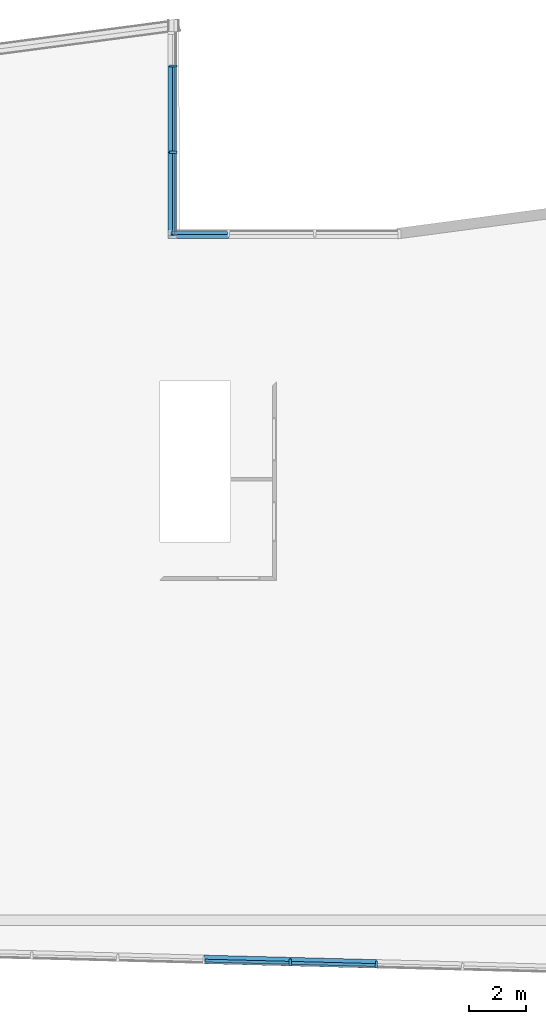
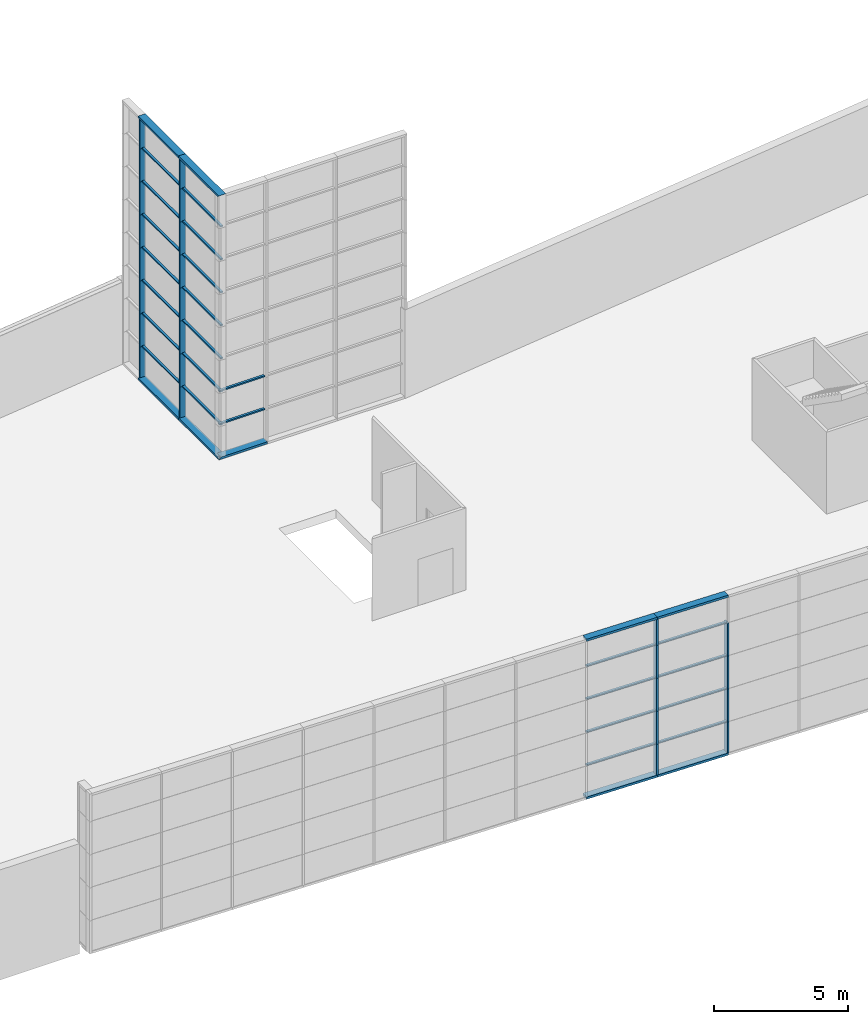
# One storey, part 5 of 27: 58 members, 3 elements without a shape of their own.
"""IFC2X3 building model written with IfcOpenShell, lengths in metres."""

from ifc_helpers import new_model, entity, si_unit, converted_unit, money_unit, direction, frame, origin_with_axes, place, context, subcontext, project, spatial, polyline, outline, extrude, clip, halfspace, material, type_object, element, aggregate, save


model = new_model("IFC2X3")

# Units and contexts
model_context = context("Model", 3, precision=1e-05, world=origin_with_axes(), true_north=direction((0.0, 1.0)))
body_context = subcontext(model_context, "Body", "Model", "MODEL_VIEW")
ifc_project = project(units=[si_unit("LENGTHUNIT", "METRE"), si_unit("AREAUNIT", "SQUARE_METRE"), si_unit("VOLUMEUNIT", "CUBIC_METRE"), converted_unit("PLANEANGLEUNIT", "DEGREE", entity("IfcPlaneAngleMeasure", 0.0174532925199), si_unit("PLANEANGLEUNIT", "RADIAN"), dimensions=[0, 0, 0, 0, 0, 0, 0]), si_unit("SOLIDANGLEUNIT", "STERADIAN"), money_unit("EUR"), converted_unit("TIMEUNIT", "Year", entity("IfcTimeMeasure", 31556926.0), si_unit("TIMEUNIT", "SECOND"), dimensions=[0, 0, 0, 0, 0, 0, 0]), si_unit("MASSUNIT", "GRAM"), si_unit("THERMODYNAMICTEMPERATUREUNIT", "DEGREE_CELSIUS"), si_unit("LUMINOUSINTENSITYUNIT", "LUMEN")], contexts=[model_context])

# Site, building, storey
site_placement = place(None, origin_with_axes())
site = spatial("IfcSite", under=ifc_project, at=site_placement, Name="Undefined", CompositionType="ELEMENT")
building_placement = place(site_placement, origin_with_axes())
building = spatial("IfcBuilding", under=site, at=building_placement, Name="Undefined", CompositionType="ELEMENT")
storey_placement = place(building_placement, frame((0.0, 0.0, 5.4), z_axis=(0.0, 0.0, 1.0), x_axis=(1.0, 0.0, 0.0)))
storey = spatial("IfcBuildingStorey", under=building, at=storey_placement, Name="R+1", CompositionType="ELEMENT", Elevation=5.4)

# Curtain wall, members
curtain_wall_type = type_object("IfcCurtainWallType", Name="Type de mur-rideau", PredefinedType="NOTDEFINED")
curtain_wall_1_placement = place(storey_placement, frame((29.5, 25.04409, 0.0), z_axis=(0.0, 0.0, 1.0), x_axis=(1.0, 0.0, 0.0)))
curtain_wall_1 = element("IfcCurtainWall", 1, at=curtain_wall_1_placement, inside=storey, type_object=curtain_wall_type, Name="CurtainWall_01", ObjectType="CURTAIN WALL")
ifc_material = material(Name="25 % 359672764")
member_type_1 = type_object("IfcMemberType", Name="Cadre 100 x 300", PredefinedType="NOTDEFINED")
member_1_placement = place(curtain_wall_1_placement, frame((0.0, -1.5, 0.0), z_axis=(0.0, 1.0, 0.0), x_axis=(0.0, 0.0, 1.0)))
member_1 = element("IfcMember", 2, at=member_1_placement, type_object=member_type_1, material=ifc_material, Name="Frame-Bnd-212", context=body_context, shape_type="Clipping", body=[
    clip(extrude(outline(polyline([(-0.25, -0.1), (0.05, -0.1), (0.05, 0.0), (-0.25, 0.0), (-0.25, -0.1)])), frame((0.0, 0.0, 0.0), z_axis=(0.0, 0.0, 1.0), x_axis=(0.0, 1.0, 0.0)), (0.0, 0.0, 1.0), 3.0), halfspace(frame((0.0, 0.0, 0.0), z_axis=(-0.707106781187, 0.0, 0.707106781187), x_axis=(0.0, -1.0, 0.0)), True)),
])
member_2_placement = place(curtain_wall_1_placement, frame((0.0, 1.5, 0.0), z_axis=(0.0, 1.0, 0.0), x_axis=(0.0, 0.0, 1.0)))
member_2 = element("IfcMember", 3, at=member_2_placement, type_object=member_type_1, material=ifc_material, Name="Frame-Bnd-213", context=body_context, shape_type="SweptSolid", body=[
    extrude(outline(polyline([(-0.25, -0.1), (0.05, -0.1), (0.05, 0.0), (-0.25, 0.0), (-0.25, -0.1)])), frame((0.0, 0.0, 0.0), z_axis=(0.0, 0.0, 1.0), x_axis=(0.0, 1.0, 0.0)), (0.0, 0.0, 1.0), 3.0),
])
member_3_placement = place(curtain_wall_1_placement, frame((0.0, -1.5, 12.0), z_axis=(0.0, 1.0, 0.0), x_axis=(0.0, 0.0, 1.0)))
member_3 = element("IfcMember", 4, at=member_3_placement, type_object=member_type_1, material=ifc_material, Name="Frame-Bnd-270", context=body_context, shape_type="Clipping", body=[
    clip(extrude(outline(polyline([(-0.25, 0.0), (0.05, 0.0), (0.05, 0.1), (-0.25, 0.1), (-0.25, 0.0)])), frame((0.0, 0.0, 0.0), z_axis=(0.0, 0.0, 1.0), x_axis=(0.0, 1.0, 0.0)), (0.0, 0.0, 1.0), 3.0), halfspace(frame((0.0, 0.0, 0.0), z_axis=(0.707106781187, 0.0, 0.707106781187), x_axis=(0.0, -1.0, 0.0)), True)),
])
member_4_placement = place(curtain_wall_1_placement, frame((0.0, 1.5, 12.0), z_axis=(0.0, 1.0, 0.0), x_axis=(0.0, 0.0, 1.0)))
member_4 = element("IfcMember", 5, at=member_4_placement, type_object=member_type_1, material=ifc_material, Name="Frame-Bnd-270", context=body_context, shape_type="SweptSolid", body=[
    extrude(outline(polyline([(-0.25, 0.0), (0.05, 0.0), (0.05, 0.1), (-0.25, 0.1), (-0.25, 0.0)])), frame((0.0, 0.0, 0.0), z_axis=(0.0, 0.0, 1.0), x_axis=(0.0, 1.0, 0.0)), (0.0, 0.0, 1.0), 3.0),
])

# Curtain wall, member
curtain_wall_2_placement = place(storey_placement, frame((35.8499996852, 23.7940983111, 0.0), z_axis=(0.0, 0.0, 1.0), x_axis=(1.0, 0.0, 0.0)))
curtain_wall_2 = element("IfcCurtainWall", 6, at=curtain_wall_2_placement, inside=storey, type_object=curtain_wall_type, Name="CurtainWall_01", ObjectType="CURTAIN WALL")
member_5_placement = place(curtain_wall_2_placement, frame((-4.5, -5.66665926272e-06, 0.0), z_axis=(-0.999999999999, -1.25925771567e-06, 0.0), x_axis=(0.0, 0.0, 1.0)))
member_5 = element("IfcMember", 7, at=member_5_placement, type_object=member_type_1, material=ifc_material, Name="Frame-Bnd-177", context=body_context, shape_type="Clipping", body=[
    clip(extrude(outline(polyline([(-0.25, -0.1), (0.05, -0.1), (0.05, 0.0), (-0.25, 0.0), (-0.25, -0.1)])), frame((0.0, 0.0, 0.0), z_axis=(0.0, 0.0, 1.0), x_axis=(0.0, 1.0, 0.0)), (0.0, 0.0, 1.0), 2.1), halfspace(frame((1.05, 0.0, 1.05), z_axis=(-0.707106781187, 0.0, -0.707106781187), x_axis=(0.0, 1.0, 0.0)), True)),
])

# Curtain wall, members
curtain_wall_3_placement = place(storey_placement, frame((10.9994920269, -1.13484133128, -0.55), z_axis=(0.0, 0.0, 1.0), x_axis=(1.0, 0.0, 0.0)))
curtain_wall_3 = element("IfcCurtainWall", 8, at=curtain_wall_3_placement, inside=storey, type_object=curtain_wall_type, Name="CurtainWall_01", ObjectType="CURTAIN WALL")
member_6_placement = place(curtain_wall_3_placement, frame((19.4933967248, -0.507428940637, 0.0), z_axis=(0.999661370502, -0.0260219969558, 0.0), x_axis=(0.0, 0.0, 1.0)))
member_6 = element("IfcMember", 9, at=member_6_placement, type_object=member_type_1, material=ifc_material, Name="Frame-Bnd-565", context=body_context, shape_type="SweptSolid", body=[
    extrude(outline(polyline([(-0.25, -0.1), (0.05, -0.1), (0.05, 0.0), (-0.25, 0.0), (-0.25, -0.1)])), frame((0.0, 0.0, 0.0), z_axis=(0.0, 0.0, 1.0), x_axis=(0.0, 1.0, 0.0)), (0.0, 0.0, 1.0), 3.0),
])
member_7_placement = place(curtain_wall_3_placement, frame((22.4923808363, -0.585494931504, 0.0), z_axis=(0.999661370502, -0.0260219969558, 0.0), x_axis=(0.0, 0.0, 1.0)))
member_7 = element("IfcMember", 10, at=member_7_placement, type_object=member_type_1, material=ifc_material, Name="Frame-Bnd-565", context=body_context, shape_type="SweptSolid", body=[
    extrude(outline(polyline([(-0.25, -0.1), (0.05, -0.1), (0.05, 0.0), (-0.25, 0.0), (-0.25, -0.1)])), frame((0.0, 0.0, 0.0), z_axis=(0.0, 0.0, 1.0), x_axis=(0.0, 1.0, 0.0)), (0.0, 0.0, 1.0), 3.0),
])
member_8_placement = place(curtain_wall_3_placement, frame((22.4923808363, -0.585494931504, 7.27506830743), z_axis=(-0.999661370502, 0.0260219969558, 0.0), x_axis=(0.0, 0.0, -1.0)))
member_8 = element("IfcMember", 11, at=member_8_placement, type_object=member_type_1, material=ifc_material, Name="Frame-Bnd-855", context=body_context, shape_type="SweptSolid", body=[
    extrude(outline(polyline([(0.25, 0.1), (-0.05, 0.1), (-0.05, 0.0), (0.25, 0.0), (0.25, 0.1)])), frame((0.0, 0.0, 0.0), z_axis=(0.0, 0.0, 1.0), x_axis=(0.0, -1.0, 0.0)), (0.0, 0.0, 1.0), 3.0),
])
member_9_placement = place(curtain_wall_3_placement, frame((25.4913649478, -0.663560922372, 7.27506830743), z_axis=(-0.999661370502, 0.0260219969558, 0.0), x_axis=(0.0, 0.0, -1.0)))
member_9 = element("IfcMember", 12, at=member_9_placement, type_object=member_type_1, material=ifc_material, Name="Frame-Bnd-856", context=body_context, shape_type="SweptSolid", body=[
    extrude(outline(polyline([(0.25, 0.1), (-0.05, 0.1), (-0.05, 0.0), (0.25, 0.0), (0.25, 0.1)])), frame((0.0, 0.0, 0.0), z_axis=(0.0, 0.0, 1.0), x_axis=(0.0, -1.0, 0.0)), (0.0, 0.0, 1.0), 3.0),
])

# Member
member_type_2 = type_object("IfcMemberType", Name="Montant 80 x 250", PredefinedType="NOTDEFINED")
member_10_placement = place(curtain_wall_1_placement, frame((0.0, 1.5, 0.0), z_axis=(0.0, 0.0, 1.0), x_axis=(0.0, -1.0, 0.0)))
member_10 = element("IfcMember", 13, at=member_10_placement, type_object=member_type_2, material=ifc_material, Name="Frame-Mll-447", context=body_context, shape_type="SweptSolid", body=[
    extrude(outline(polyline([(-0.2, -0.04), (0.05, -0.04), (0.05, 0.04), (-0.2, 0.04), (-0.2, -0.04)])), frame((0.0, 0.0, 0.1), z_axis=(0.0, 0.0, 1.0), x_axis=(0.0, 1.0, 0.0)), (0.0, 0.0, 1.0), 1.4),
])

member_11_placement = place(curtain_wall_1_placement, frame((0.0, 4.5, 0.0), z_axis=(0.0, 0.0, 1.0), x_axis=(0.0, -1.0, 0.0)))
member_11 = element("IfcMember", 14, at=member_11_placement, type_object=member_type_2, material=ifc_material, Name="Frame-Mll-448", context=body_context, shape_type="SweptSolid", body=[
    extrude(outline(polyline([(-0.2, -0.04), (0.05, -0.04), (0.05, 0.04), (-0.2, 0.04), (-0.2, -0.04)])), frame((0.0, 0.0, 0.1), z_axis=(0.0, 0.0, 1.0), x_axis=(0.0, 1.0, 0.0)), (0.0, 0.0, 1.0), 1.4),
])

member_12_placement = place(curtain_wall_1_placement, frame((0.0, 1.5, 1.5), z_axis=(0.0, 0.0, 1.0), x_axis=(0.0, -1.0, 0.0)))
member_12 = element("IfcMember", 15, at=member_12_placement, type_object=member_type_2, material=ifc_material, Name="Frame-Mll-449", context=body_context, shape_type="SweptSolid", body=[
    extrude(outline(polyline([(-0.2, -0.04), (0.05, -0.04), (0.05, 0.04), (-0.2, 0.04), (-0.2, -0.04)])), frame((0.0, 0.0, 0.0), z_axis=(0.0, 0.0, 1.0), x_axis=(0.0, 1.0, 0.0)), (0.0, 0.0, 1.0), 1.5),
])

member_13_placement = place(curtain_wall_1_placement, frame((0.0, 4.5, 1.5), z_axis=(0.0, 0.0, 1.0), x_axis=(0.0, -1.0, 0.0)))
member_13 = element("IfcMember", 16, at=member_13_placement, type_object=member_type_2, material=ifc_material, Name="Frame-Mll-450", context=body_context, shape_type="SweptSolid", body=[
    extrude(outline(polyline([(-0.2, -0.04), (0.05, -0.04), (0.05, 0.04), (-0.2, 0.04), (-0.2, -0.04)])), frame((0.0, 0.0, 0.0), z_axis=(0.0, 0.0, 1.0), x_axis=(0.0, 1.0, 0.0)), (0.0, 0.0, 1.0), 1.5),
])

member_14_placement = place(curtain_wall_1_placement, frame((0.0, 1.5, 3.0), z_axis=(0.0, 0.0, 1.0), x_axis=(0.0, -1.0, 0.0)))
member_14 = element("IfcMember", 17, at=member_14_placement, type_object=member_type_2, material=ifc_material, Name="Frame-Mll-451", context=body_context, shape_type="SweptSolid", body=[
    extrude(outline(polyline([(-0.2, -0.04), (0.05, -0.04), (0.05, 0.04), (-0.2, 0.04), (-0.2, -0.04)])), frame((0.0, 0.0, 0.0), z_axis=(0.0, 0.0, 1.0), x_axis=(0.0, 1.0, 0.0)), (0.0, 0.0, 1.0), 1.5),
])

member_15_placement = place(curtain_wall_1_placement, frame((0.0, 4.5, 3.0), z_axis=(0.0, 0.0, 1.0), x_axis=(0.0, -1.0, 0.0)))
member_15 = element("IfcMember", 18, at=member_15_placement, type_object=member_type_2, material=ifc_material, Name="Frame-Mll-452", context=body_context, shape_type="SweptSolid", body=[
    extrude(outline(polyline([(-0.2, -0.04), (0.05, -0.04), (0.05, 0.04), (-0.2, 0.04), (-0.2, -0.04)])), frame((0.0, 0.0, 0.0), z_axis=(0.0, 0.0, 1.0), x_axis=(0.0, 1.0, 0.0)), (0.0, 0.0, 1.0), 1.5),
])

member_16_placement = place(curtain_wall_1_placement, frame((0.0, 1.5, 4.5), z_axis=(0.0, 0.0, 1.0), x_axis=(0.0, -1.0, 0.0)))
member_16 = element("IfcMember", 19, at=member_16_placement, type_object=member_type_2, material=ifc_material, Name="Frame-Mll-453", context=body_context, shape_type="SweptSolid", body=[
    extrude(outline(polyline([(-0.2, -0.04), (0.05, -0.04), (0.05, 0.04), (-0.2, 0.04), (-0.2, -0.04)])), frame((0.0, 0.0, 0.0), z_axis=(0.0, 0.0, 1.0), x_axis=(0.0, 1.0, 0.0)), (0.0, 0.0, 1.0), 1.5),
])

member_17_placement = place(curtain_wall_1_placement, frame((0.0, 4.5, 4.5), z_axis=(0.0, 0.0, 1.0), x_axis=(0.0, -1.0, 0.0)))
member_17 = element("IfcMember", 20, at=member_17_placement, type_object=member_type_2, material=ifc_material, Name="Frame-Mll-454", context=body_context, shape_type="SweptSolid", body=[
    extrude(outline(polyline([(-0.2, -0.04), (0.05, -0.04), (0.05, 0.04), (-0.2, 0.04), (-0.2, -0.04)])), frame((0.0, 0.0, 0.0), z_axis=(0.0, 0.0, 1.0), x_axis=(0.0, 1.0, 0.0)), (0.0, 0.0, 1.0), 1.5),
])

member_18_placement = place(curtain_wall_1_placement, frame((0.0, 1.5, 6.0), z_axis=(0.0, 0.0, 1.0), x_axis=(0.0, -1.0, 0.0)))
member_18 = element("IfcMember", 21, at=member_18_placement, type_object=member_type_2, material=ifc_material, Name="Frame-Mll-455", context=body_context, shape_type="SweptSolid", body=[
    extrude(outline(polyline([(-0.2, -0.04), (0.05, -0.04), (0.05, 0.04), (-0.2, 0.04), (-0.2, -0.04)])), frame((0.0, 0.0, 0.0), z_axis=(0.0, 0.0, 1.0), x_axis=(0.0, 1.0, 0.0)), (0.0, 0.0, 1.0), 1.5),
])

member_19_placement = place(curtain_wall_1_placement, frame((0.0, 4.5, 6.0), z_axis=(0.0, 0.0, 1.0), x_axis=(0.0, -1.0, 0.0)))
member_19 = element("IfcMember", 22, at=member_19_placement, type_object=member_type_2, material=ifc_material, Name="Frame-Mll-456", context=body_context, shape_type="SweptSolid", body=[
    extrude(outline(polyline([(-0.2, -0.04), (0.05, -0.04), (0.05, 0.04), (-0.2, 0.04), (-0.2, -0.04)])), frame((0.0, 0.0, 0.0), z_axis=(0.0, 0.0, 1.0), x_axis=(0.0, 1.0, 0.0)), (0.0, 0.0, 1.0), 1.5),
])

member_20_placement = place(curtain_wall_1_placement, frame((0.0, 1.5, 7.5), z_axis=(0.0, 0.0, 1.0), x_axis=(0.0, -1.0, 0.0)))
member_20 = element("IfcMember", 23, at=member_20_placement, type_object=member_type_2, material=ifc_material, Name="Frame-Mll-457", context=body_context, shape_type="SweptSolid", body=[
    extrude(outline(polyline([(-0.2, -0.04), (0.05, -0.04), (0.05, 0.04), (-0.2, 0.04), (-0.2, -0.04)])), frame((0.0, 0.0, 0.0), z_axis=(0.0, 0.0, 1.0), x_axis=(0.0, 1.0, 0.0)), (0.0, 0.0, 1.0), 1.5),
])

member_21_placement = place(curtain_wall_1_placement, frame((0.0, 4.5, 7.5), z_axis=(0.0, 0.0, 1.0), x_axis=(0.0, -1.0, 0.0)))
member_21 = element("IfcMember", 24, at=member_21_placement, type_object=member_type_2, material=ifc_material, Name="Frame-Mll-458", context=body_context, shape_type="SweptSolid", body=[
    extrude(outline(polyline([(-0.2, -0.04), (0.05, -0.04), (0.05, 0.04), (-0.2, 0.04), (-0.2, -0.04)])), frame((0.0, 0.0, 0.0), z_axis=(0.0, 0.0, 1.0), x_axis=(0.0, 1.0, 0.0)), (0.0, 0.0, 1.0), 1.5),
])

member_22_placement = place(curtain_wall_1_placement, frame((0.0, 1.5, 9.0), z_axis=(0.0, 0.0, 1.0), x_axis=(0.0, -1.0, 0.0)))
member_22 = element("IfcMember", 25, at=member_22_placement, type_object=member_type_2, material=ifc_material, Name="Frame-Mll-459", context=body_context, shape_type="SweptSolid", body=[
    extrude(outline(polyline([(-0.2, -0.04), (0.05, -0.04), (0.05, 0.04), (-0.2, 0.04), (-0.2, -0.04)])), frame((0.0, 0.0, 0.0), z_axis=(0.0, 0.0, 1.0), x_axis=(0.0, 1.0, 0.0)), (0.0, 0.0, 1.0), 1.5),
])

member_23_placement = place(curtain_wall_1_placement, frame((0.0, 4.5, 9.0), z_axis=(0.0, 0.0, 1.0), x_axis=(0.0, -1.0, 0.0)))
member_23 = element("IfcMember", 26, at=member_23_placement, type_object=member_type_2, material=ifc_material, Name="Frame-Mll-460", context=body_context, shape_type="SweptSolid", body=[
    extrude(outline(polyline([(-0.2, -0.04), (0.05, -0.04), (0.05, 0.04), (-0.2, 0.04), (-0.2, -0.04)])), frame((0.0, 0.0, 0.0), z_axis=(0.0, 0.0, 1.0), x_axis=(0.0, 1.0, 0.0)), (0.0, 0.0, 1.0), 1.5),
])

member_24_placement = place(curtain_wall_1_placement, frame((0.0, 1.5, 10.5), z_axis=(0.0, 0.0, 1.0), x_axis=(0.0, -1.0, 0.0)))
member_24 = element("IfcMember", 27, at=member_24_placement, type_object=member_type_2, material=ifc_material, Name="Frame-Mll-461", context=body_context, shape_type="SweptSolid", body=[
    extrude(outline(polyline([(-0.2, -0.04), (0.05, -0.04), (0.05, 0.04), (-0.2, 0.04), (-0.2, -0.04)])), frame((0.0, 0.0, 0.0), z_axis=(0.0, 0.0, 1.0), x_axis=(0.0, 1.0, 0.0)), (0.0, 0.0, 1.0), 1.4),
])

member_25_placement = place(curtain_wall_1_placement, frame((0.0, 4.5, 10.5), z_axis=(0.0, 0.0, 1.0), x_axis=(0.0, -1.0, 0.0)))
member_25 = element("IfcMember", 28, at=member_25_placement, type_object=member_type_2, material=ifc_material, Name="Frame-Mll-462", context=body_context, shape_type="SweptSolid", body=[
    extrude(outline(polyline([(-0.2, -0.04), (0.05, -0.04), (0.05, 0.04), (-0.2, 0.04), (-0.2, -0.04)])), frame((0.0, 0.0, 0.0), z_axis=(0.0, 0.0, 1.0), x_axis=(0.0, 1.0, 0.0)), (0.0, 0.0, 1.0), 1.4),
])

member_26_placement = place(curtain_wall_3_placement, frame((22.4923808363, -0.585494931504, 0.0), z_axis=(0.0, 0.0, 1.0), x_axis=(-0.999661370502, 0.0260219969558, 0.0)))
member_26 = element("IfcMember", 29, at=member_26_placement, type_object=member_type_2, material=ifc_material, Name="Frame-Mll-209", context=body_context, shape_type="SweptSolid", body=[
    extrude(outline(polyline([(-0.0347820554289, 0.200973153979), (-0.0412875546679, -0.0489421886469), (0.0386853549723, -0.0510239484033), (0.0451908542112, 0.198891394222), (-0.0347820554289, 0.200973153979)])), frame((0.0, 0.0, 0.1), z_axis=(0.0, 0.0, 1.0), x_axis=(-0.999661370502, -0.0260219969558, 0.0)), (0.0, 0.0, 1.0), 1.4),
])

member_27_placement = place(curtain_wall_3_placement, frame((25.4913649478, -0.663560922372, 0.0), z_axis=(0.0, 0.0, 1.0), x_axis=(-0.999661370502, 0.0260219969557, 0.0)))
member_27 = element("IfcMember", 30, at=member_27_placement, type_object=member_type_2, material=ifc_material, Name="Frame-Mll-209", context=body_context, shape_type="SweptSolid", body=[
    extrude(outline(polyline([(-0.0347820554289, 0.200973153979), (-0.0412875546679, -0.0489421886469), (0.0386853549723, -0.0510239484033), (0.0451908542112, 0.198891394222), (-0.0347820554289, 0.200973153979)])), frame((0.0, 0.0, 0.1), z_axis=(0.0, 0.0, 1.0), x_axis=(-0.999661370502, -0.0260219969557, 0.0)), (0.0, 0.0, 1.0), 1.4),
])

member_28_placement = place(curtain_wall_3_placement, frame((22.4923808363, -0.585494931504, 1.5), z_axis=(0.0, 0.0, 1.0), x_axis=(-0.999661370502, 0.0260219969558, 0.0)))
member_28 = element("IfcMember", 31, at=member_28_placement, type_object=member_type_2, material=ifc_material, Name="Frame-Mll-209", context=body_context, shape_type="SweptSolid", body=[
    extrude(outline(polyline([(-0.0347820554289, 0.200973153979), (-0.0412875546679, -0.0489421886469), (0.0386853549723, -0.0510239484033), (0.0451908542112, 0.198891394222), (-0.0347820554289, 0.200973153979)])), frame((0.0, 0.0, 0.0), z_axis=(0.0, 0.0, 1.0), x_axis=(-0.999661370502, -0.0260219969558, 0.0)), (0.0, 0.0, 1.0), 1.5),
])

member_29_placement = place(curtain_wall_3_placement, frame((25.4913649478, -0.663560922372, 1.5), z_axis=(0.0, 0.0, 1.0), x_axis=(-0.999661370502, 0.0260219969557, 0.0)))
member_29 = element("IfcMember", 32, at=member_29_placement, type_object=member_type_2, material=ifc_material, Name="Frame-Mll-209", context=body_context, shape_type="SweptSolid", body=[
    extrude(outline(polyline([(-0.0347820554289, 0.200973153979), (-0.0412875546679, -0.0489421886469), (0.0386853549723, -0.0510239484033), (0.0451908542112, 0.198891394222), (-0.0347820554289, 0.200973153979)])), frame((0.0, 0.0, 0.0), z_axis=(0.0, 0.0, 1.0), x_axis=(-0.999661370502, -0.0260219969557, 0.0)), (0.0, 0.0, 1.0), 1.5),
])

member_30_placement = place(curtain_wall_3_placement, frame((22.4923808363, -0.585494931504, 3.0), z_axis=(0.0, 0.0, 1.0), x_axis=(-0.999661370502, 0.0260219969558, 0.0)))
member_30 = element("IfcMember", 33, at=member_30_placement, type_object=member_type_2, material=ifc_material, Name="Frame-Mll-209", context=body_context, shape_type="SweptSolid", body=[
    extrude(outline(polyline([(-0.0347820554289, 0.200973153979), (-0.0412875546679, -0.0489421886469), (0.0386853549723, -0.0510239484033), (0.0451908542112, 0.198891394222), (-0.0347820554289, 0.200973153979)])), frame((0.0, 0.0, 0.0), z_axis=(0.0, 0.0, 1.0), x_axis=(-0.999661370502, -0.0260219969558, 0.0)), (0.0, 0.0, 1.0), 1.5),
])

member_31_placement = place(curtain_wall_3_placement, frame((25.4913649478, -0.663560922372, 3.0), z_axis=(0.0, 0.0, 1.0), x_axis=(-0.999661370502, 0.0260219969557, 0.0)))
member_31 = element("IfcMember", 34, at=member_31_placement, type_object=member_type_2, material=ifc_material, Name="Frame-Mll-209", context=body_context, shape_type="SweptSolid", body=[
    extrude(outline(polyline([(-0.0347820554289, 0.200973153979), (-0.0412875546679, -0.0489421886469), (0.0386853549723, -0.0510239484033), (0.0451908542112, 0.198891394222), (-0.0347820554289, 0.200973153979)])), frame((0.0, 0.0, 0.0), z_axis=(0.0, 0.0, 1.0), x_axis=(-0.999661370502, -0.0260219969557, 0.0)), (0.0, 0.0, 1.0), 1.5),
])

member_32_placement = place(curtain_wall_3_placement, frame((22.4923808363, -0.585494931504, 4.5), z_axis=(0.0, 0.0, 1.0), x_axis=(-0.999661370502, 0.0260219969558, 0.0)))
member_32 = element("IfcMember", 35, at=member_32_placement, type_object=member_type_2, material=ifc_material, Name="Frame-Mll-209", context=body_context, shape_type="SweptSolid", body=[
    extrude(outline(polyline([(-0.0347820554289, 0.200973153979), (-0.0412875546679, -0.0489421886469), (0.0386853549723, -0.0510239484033), (0.0451908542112, 0.198891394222), (-0.0347820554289, 0.200973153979)])), frame((0.0, 0.0, 0.0), z_axis=(0.0, 0.0, 1.0), x_axis=(-0.999661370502, -0.0260219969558, 0.0)), (0.0, 0.0, 1.0), 1.5),
])

member_33_placement = place(curtain_wall_3_placement, frame((25.4913649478, -0.663560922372, 4.5), z_axis=(0.0, 0.0, 1.0), x_axis=(-0.999661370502, 0.0260219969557, 0.0)))
member_33 = element("IfcMember", 36, at=member_33_placement, type_object=member_type_2, material=ifc_material, Name="Frame-Mll-209", context=body_context, shape_type="SweptSolid", body=[
    extrude(outline(polyline([(-0.0347820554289, 0.200973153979), (-0.0412875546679, -0.0489421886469), (0.0386853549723, -0.0510239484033), (0.0451908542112, 0.198891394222), (-0.0347820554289, 0.200973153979)])), frame((0.0, 0.0, 0.0), z_axis=(0.0, 0.0, 1.0), x_axis=(-0.999661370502, -0.0260219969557, 0.0)), (0.0, 0.0, 1.0), 1.5),
])

member_34_placement = place(curtain_wall_3_placement, frame((22.4923808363, -0.585494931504, 6.0), z_axis=(0.0, 0.0, 1.0), x_axis=(-0.999661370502, 0.0260219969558, 0.0)))
member_34 = element("IfcMember", 37, at=member_34_placement, type_object=member_type_2, material=ifc_material, Name="Frame-Mll-209", context=body_context, shape_type="SweptSolid", body=[
    extrude(outline(polyline([(-0.0347820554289, 0.200973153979), (-0.0412875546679, -0.0489421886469), (0.0386853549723, -0.0510239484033), (0.0451908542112, 0.198891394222), (-0.0347820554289, 0.200973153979)])), frame((0.0, 0.0, 0.0), z_axis=(0.0, 0.0, 1.0), x_axis=(-0.999661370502, -0.0260219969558, 0.0)), (0.0, 0.0, 1.0), 1.17506830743),
])

member_type_3 = type_object("IfcMemberType", Name="Traverse 60 x 100", PredefinedType="NOTDEFINED")
member_35_placement = place(curtain_wall_1_placement, frame((0.0, -1.5, 1.5), z_axis=(0.0, 1.0, 0.0), x_axis=(0.0, 0.0, 1.0)))
member_35 = element("IfcMember", 38, at=member_35_placement, type_object=member_type_3, material=ifc_material, Name="Frame-Trs-001", context=body_context, shape_type="SweptSolid", body=[
    extrude(outline(polyline([(-0.11, -0.03), (-0.01, -0.03), (-0.01, 0.03), (-0.11, 0.03), (-0.11, -0.03)])), frame((0.0, 0.0, 0.1), z_axis=(0.0, 0.0, 1.0), x_axis=(0.0, 1.0, 0.0)), (0.0, 0.0, 1.0), 2.86),
])

member_36_placement = place(curtain_wall_1_placement, frame((0.0, 1.5, 1.5), z_axis=(0.0, 1.0, 0.0), x_axis=(0.0, 0.0, 1.0)))
member_36 = element("IfcMember", 39, at=member_36_placement, type_object=member_type_3, material=ifc_material, Name="Frame-Trs-002", context=body_context, shape_type="SweptSolid", body=[
    extrude(outline(polyline([(-0.11, -0.03), (-0.01, -0.03), (-0.01, 0.03), (-0.11, 0.03), (-0.11, -0.03)])), frame((0.0, 0.0, 0.04), z_axis=(0.0, 0.0, 1.0), x_axis=(0.0, 1.0, 0.0)), (0.0, 0.0, 1.0), 2.92),
])

member_37_placement = place(curtain_wall_1_placement, frame((0.0, -1.5, 3.0), z_axis=(0.0, 1.0, 0.0), x_axis=(0.0, 0.0, 1.0)))
member_37 = element("IfcMember", 40, at=member_37_placement, type_object=member_type_3, material=ifc_material, Name="Frame-Trs-004", context=body_context, shape_type="SweptSolid", body=[
    extrude(outline(polyline([(-0.11, -0.03), (-0.01, -0.03), (-0.01, 0.03), (-0.11, 0.03), (-0.11, -0.03)])), frame((0.0, 0.0, 0.1), z_axis=(0.0, 0.0, 1.0), x_axis=(0.0, 1.0, 0.0)), (0.0, 0.0, 1.0), 2.86),
])

member_38_placement = place(curtain_wall_1_placement, frame((0.0, 1.5, 3.0), z_axis=(0.0, 1.0, 0.0), x_axis=(0.0, 0.0, 1.0)))
member_38 = element("IfcMember", 41, at=member_38_placement, type_object=member_type_3, material=ifc_material, Name="Frame-Trs-005", context=body_context, shape_type="SweptSolid", body=[
    extrude(outline(polyline([(-0.11, -0.03), (-0.01, -0.03), (-0.01, 0.03), (-0.11, 0.03), (-0.11, -0.03)])), frame((0.0, 0.0, 0.04), z_axis=(0.0, 0.0, 1.0), x_axis=(0.0, 1.0, 0.0)), (0.0, 0.0, 1.0), 2.92),
])

member_39_placement = place(curtain_wall_1_placement, frame((0.0, -1.5, 4.5), z_axis=(0.0, 1.0, 0.0), x_axis=(0.0, 0.0, 1.0)))
member_39 = element("IfcMember", 42, at=member_39_placement, type_object=member_type_3, material=ifc_material, Name="Frame-Trs-007", context=body_context, shape_type="SweptSolid", body=[
    extrude(outline(polyline([(-0.11, -0.03), (-0.01, -0.03), (-0.01, 0.03), (-0.11, 0.03), (-0.11, -0.03)])), frame((0.0, 0.0, 0.1), z_axis=(0.0, 0.0, 1.0), x_axis=(0.0, 1.0, 0.0)), (0.0, 0.0, 1.0), 2.86),
])

member_40_placement = place(curtain_wall_1_placement, frame((0.0, 1.5, 4.5), z_axis=(0.0, 1.0, 0.0), x_axis=(0.0, 0.0, 1.0)))
member_40 = element("IfcMember", 43, at=member_40_placement, type_object=member_type_3, material=ifc_material, Name="Frame-Trs-008", context=body_context, shape_type="SweptSolid", body=[
    extrude(outline(polyline([(-0.11, -0.03), (-0.01, -0.03), (-0.01, 0.03), (-0.11, 0.03), (-0.11, -0.03)])), frame((0.0, 0.0, 0.04), z_axis=(0.0, 0.0, 1.0), x_axis=(0.0, 1.0, 0.0)), (0.0, 0.0, 1.0), 2.92),
])

member_41_placement = place(curtain_wall_1_placement, frame((0.0, -1.5, 6.0), z_axis=(0.0, 1.0, 0.0), x_axis=(0.0, 0.0, 1.0)))
member_41 = element("IfcMember", 44, at=member_41_placement, type_object=member_type_3, material=ifc_material, Name="Frame-Trs-010", context=body_context, shape_type="SweptSolid", body=[
    extrude(outline(polyline([(-0.11, -0.03), (-0.01, -0.03), (-0.01, 0.03), (-0.11, 0.03), (-0.11, -0.03)])), frame((0.0, 0.0, 0.1), z_axis=(0.0, 0.0, 1.0), x_axis=(0.0, 1.0, 0.0)), (0.0, 0.0, 1.0), 2.86),
])

member_42_placement = place(curtain_wall_1_placement, frame((0.0, 1.5, 6.0), z_axis=(0.0, 1.0, 0.0), x_axis=(0.0, 0.0, 1.0)))
member_42 = element("IfcMember", 45, at=member_42_placement, type_object=member_type_3, material=ifc_material, Name="Frame-Trs-011", context=body_context, shape_type="SweptSolid", body=[
    extrude(outline(polyline([(-0.11, -0.03), (-0.01, -0.03), (-0.01, 0.03), (-0.11, 0.03), (-0.11, -0.03)])), frame((0.0, 0.0, 0.04), z_axis=(0.0, 0.0, 1.0), x_axis=(0.0, 1.0, 0.0)), (0.0, 0.0, 1.0), 2.92),
])

member_43_placement = place(curtain_wall_1_placement, frame((0.0, -1.5, 7.5), z_axis=(0.0, 1.0, 0.0), x_axis=(0.0, 0.0, 1.0)))
member_43 = element("IfcMember", 46, at=member_43_placement, type_object=member_type_3, material=ifc_material, Name="Frame-Trs-013", context=body_context, shape_type="SweptSolid", body=[
    extrude(outline(polyline([(-0.11, -0.03), (-0.01, -0.03), (-0.01, 0.03), (-0.11, 0.03), (-0.11, -0.03)])), frame((0.0, 0.0, 0.1), z_axis=(0.0, 0.0, 1.0), x_axis=(0.0, 1.0, 0.0)), (0.0, 0.0, 1.0), 2.86),
])

member_44_placement = place(curtain_wall_1_placement, frame((0.0, 1.5, 7.5), z_axis=(0.0, 1.0, 0.0), x_axis=(0.0, 0.0, 1.0)))
member_44 = element("IfcMember", 47, at=member_44_placement, type_object=member_type_3, material=ifc_material, Name="Frame-Trs-014", context=body_context, shape_type="SweptSolid", body=[
    extrude(outline(polyline([(-0.11, -0.03), (-0.01, -0.03), (-0.01, 0.03), (-0.11, 0.03), (-0.11, -0.03)])), frame((0.0, 0.0, 0.04), z_axis=(0.0, 0.0, 1.0), x_axis=(0.0, 1.0, 0.0)), (0.0, 0.0, 1.0), 2.92),
])

member_45_placement = place(curtain_wall_1_placement, frame((0.0, -1.5, 9.0), z_axis=(0.0, 1.0, 0.0), x_axis=(0.0, 0.0, 1.0)))
member_45 = element("IfcMember", 48, at=member_45_placement, type_object=member_type_3, material=ifc_material, Name="Frame-Trs-016", context=body_context, shape_type="SweptSolid", body=[
    extrude(outline(polyline([(-0.11, -0.03), (-0.01, -0.03), (-0.01, 0.03), (-0.11, 0.03), (-0.11, -0.03)])), frame((0.0, 0.0, 0.1), z_axis=(0.0, 0.0, 1.0), x_axis=(0.0, 1.0, 0.0)), (0.0, 0.0, 1.0), 2.86),
])

member_46_placement = place(curtain_wall_1_placement, frame((0.0, 1.5, 9.0), z_axis=(0.0, 1.0, 0.0), x_axis=(0.0, 0.0, 1.0)))
member_46 = element("IfcMember", 49, at=member_46_placement, type_object=member_type_3, material=ifc_material, Name="Frame-Trs-017", context=body_context, shape_type="SweptSolid", body=[
    extrude(outline(polyline([(-0.11, -0.03), (-0.01, -0.03), (-0.01, 0.03), (-0.11, 0.03), (-0.11, -0.03)])), frame((0.0, 0.0, 0.04), z_axis=(0.0, 0.0, 1.0), x_axis=(0.0, 1.0, 0.0)), (0.0, 0.0, 1.0), 2.92),
])

member_47_placement = place(curtain_wall_1_placement, frame((0.0, -1.5, 10.5), z_axis=(0.0, 1.0, 0.0), x_axis=(0.0, 0.0, 1.0)))
member_47 = element("IfcMember", 50, at=member_47_placement, type_object=member_type_3, material=ifc_material, Name="Frame-Trs-019", context=body_context, shape_type="SweptSolid", body=[
    extrude(outline(polyline([(-0.11, -0.03), (-0.01, -0.03), (-0.01, 0.03), (-0.11, 0.03), (-0.11, -0.03)])), frame((0.0, 0.0, 0.1), z_axis=(0.0, 0.0, 1.0), x_axis=(0.0, 1.0, 0.0)), (0.0, 0.0, 1.0), 2.86),
])

member_48_placement = place(curtain_wall_1_placement, frame((0.0, 1.5, 10.5), z_axis=(0.0, 1.0, 0.0), x_axis=(0.0, 0.0, 1.0)))
member_48 = element("IfcMember", 51, at=member_48_placement, type_object=member_type_3, material=ifc_material, Name="Frame-Trs-020", context=body_context, shape_type="SweptSolid", body=[
    extrude(outline(polyline([(-0.11, -0.03), (-0.01, -0.03), (-0.01, 0.03), (-0.11, 0.03), (-0.11, -0.03)])), frame((0.0, 0.0, 0.04), z_axis=(0.0, 0.0, 1.0), x_axis=(0.0, 1.0, 0.0)), (0.0, 0.0, 1.0), 2.92),
])

aggregate(curtain_wall_1, [member_1, member_2, member_10, member_11, member_35, member_36, member_12, member_13, member_37, member_38, member_14, member_15, member_39, member_40, member_16, member_17, member_41, member_42, member_18, member_19, member_43, member_44, member_20, member_21, member_45, member_46, member_22, member_23, member_47, member_48, member_24, member_25, member_3, member_4])

member_49_placement = place(curtain_wall_2_placement, frame((-4.5, -5.66665926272e-06, 3.0), z_axis=(-0.999999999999, -1.25925771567e-06, 0.0), x_axis=(0.0, 0.0, 1.0)))
member_49 = element("IfcMember", 52, at=member_49_placement, type_object=member_type_3, material=ifc_material, Name="Frame-Trs-988", context=body_context, shape_type="SweptSolid", body=[
    extrude(outline(polyline([(-0.11, -0.03), (-0.01, -0.03), (-0.01, 0.03), (-0.11, 0.03), (-0.11, -0.03)])), frame((0.0, 0.0, 0.04), z_axis=(0.0, 0.0, 1.0), x_axis=(0.0, 1.0, 0.0)), (0.0, 0.0, 1.0), 1.96),
])

member_50_placement = place(curtain_wall_2_placement, frame((-4.5, -5.66665926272e-06, 1.5), z_axis=(-0.999999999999, -1.25925771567e-06, 0.0), x_axis=(0.0, 0.0, 1.0)))
member_50 = element("IfcMember", 53, at=member_50_placement, type_object=member_type_3, material=ifc_material, Name="Frame-Trs-989", context=body_context, shape_type="SweptSolid", body=[
    extrude(outline(polyline([(-0.11, -0.03), (-0.01, -0.03), (-0.01, 0.03), (-0.11, 0.03), (-0.11, -0.03)])), frame((0.0, 0.0, 0.04), z_axis=(0.0, 0.0, 1.0), x_axis=(0.0, 1.0, 0.0)), (0.0, 0.0, 1.0), 1.96),
])

aggregate(curtain_wall_2, [member_49, member_50, member_5])

member_51_placement = place(curtain_wall_3_placement, frame((19.4933967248, -0.507428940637, 1.5), z_axis=(0.999661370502, -0.0260219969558, 0.0), x_axis=(0.0, 0.0, 1.0)))
member_51 = element("IfcMember", 54, at=member_51_placement, type_object=member_type_3, material=ifc_material, Name="Frame-Trs-501", context=body_context, shape_type="SweptSolid", body=[
    extrude(outline(polyline([(-0.11, -0.03), (-0.01, -0.03), (-0.01, 0.03), (-0.11, 0.03), (-0.11, -0.03)])), frame((0.0, 0.0, 0.04), z_axis=(0.0, 0.0, 1.0), x_axis=(0.0, 1.0, 0.0)), (0.0, 0.0, 1.0), 2.92),
])

member_52_placement = place(curtain_wall_3_placement, frame((22.4923808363, -0.585494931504, 1.5), z_axis=(0.999661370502, -0.0260219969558, 0.0), x_axis=(0.0, 0.0, 1.0)))
member_52 = element("IfcMember", 55, at=member_52_placement, type_object=member_type_3, material=ifc_material, Name="Frame-Trs-501", context=body_context, shape_type="SweptSolid", body=[
    extrude(outline(polyline([(-0.11, -0.03), (-0.01, -0.03), (-0.01, 0.03), (-0.11, 0.03), (-0.11, -0.03)])), frame((0.0, 0.0, 0.04), z_axis=(0.0, 0.0, 1.0), x_axis=(0.0, 1.0, 0.0)), (0.0, 0.0, 1.0), 2.92),
])

member_53_placement = place(curtain_wall_3_placement, frame((19.4933967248, -0.507428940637, 3.0), z_axis=(0.999661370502, -0.0260219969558, 0.0), x_axis=(0.0, 0.0, 1.0)))
member_53 = element("IfcMember", 56, at=member_53_placement, type_object=member_type_3, material=ifc_material, Name="Frame-Trs-501", context=body_context, shape_type="SweptSolid", body=[
    extrude(outline(polyline([(-0.11, -0.03), (-0.01, -0.03), (-0.01, 0.03), (-0.11, 0.03), (-0.11, -0.03)])), frame((0.0, 0.0, 0.04), z_axis=(0.0, 0.0, 1.0), x_axis=(0.0, 1.0, 0.0)), (0.0, 0.0, 1.0), 2.92),
])

member_54_placement = place(curtain_wall_3_placement, frame((22.4923808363, -0.585494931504, 3.0), z_axis=(0.999661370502, -0.0260219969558, 0.0), x_axis=(0.0, 0.0, 1.0)))
member_54 = element("IfcMember", 57, at=member_54_placement, type_object=member_type_3, material=ifc_material, Name="Frame-Trs-501", context=body_context, shape_type="SweptSolid", body=[
    extrude(outline(polyline([(-0.11, -0.03), (-0.01, -0.03), (-0.01, 0.03), (-0.11, 0.03), (-0.11, -0.03)])), frame((0.0, 0.0, 0.04), z_axis=(0.0, 0.0, 1.0), x_axis=(0.0, 1.0, 0.0)), (0.0, 0.0, 1.0), 2.92),
])

member_55_placement = place(curtain_wall_3_placement, frame((19.4933967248, -0.507428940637, 4.5), z_axis=(0.999661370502, -0.0260219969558, 0.0), x_axis=(0.0, 0.0, 1.0)))
member_55 = element("IfcMember", 58, at=member_55_placement, type_object=member_type_3, material=ifc_material, Name="Frame-Trs-501", context=body_context, shape_type="SweptSolid", body=[
    extrude(outline(polyline([(-0.11, -0.03), (-0.01, -0.03), (-0.01, 0.03), (-0.11, 0.03), (-0.11, -0.03)])), frame((0.0, 0.0, 0.04), z_axis=(0.0, 0.0, 1.0), x_axis=(0.0, 1.0, 0.0)), (0.0, 0.0, 1.0), 2.92),
])

member_56_placement = place(curtain_wall_3_placement, frame((22.4923808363, -0.585494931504, 4.5), z_axis=(0.999661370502, -0.0260219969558, 0.0), x_axis=(0.0, 0.0, 1.0)))
member_56 = element("IfcMember", 59, at=member_56_placement, type_object=member_type_3, material=ifc_material, Name="Frame-Trs-501", context=body_context, shape_type="SweptSolid", body=[
    extrude(outline(polyline([(-0.11, -0.03), (-0.01, -0.03), (-0.01, 0.03), (-0.11, 0.03), (-0.11, -0.03)])), frame((0.0, 0.0, 0.04), z_axis=(0.0, 0.0, 1.0), x_axis=(0.0, 1.0, 0.0)), (0.0, 0.0, 1.0), 2.92),
])

member_57_placement = place(curtain_wall_3_placement, frame((19.4933967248, -0.507428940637, 6.0), z_axis=(0.999661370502, -0.0260219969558, 0.0), x_axis=(0.0, 0.0, 1.0)))
member_57 = element("IfcMember", 60, at=member_57_placement, type_object=member_type_3, material=ifc_material, Name="Frame-Trs-501", context=body_context, shape_type="SweptSolid", body=[
    extrude(outline(polyline([(-0.11, -0.03), (-0.01, -0.03), (-0.01, 0.03), (-0.11, 0.03), (-0.11, -0.03)])), frame((0.0, 0.0, 0.04), z_axis=(0.0, 0.0, 1.0), x_axis=(0.0, 1.0, 0.0)), (0.0, 0.0, 1.0), 2.92),
])

member_58_placement = place(curtain_wall_3_placement, frame((22.4923808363, -0.585494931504, 6.0), z_axis=(0.999661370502, -0.0260219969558, 0.0), x_axis=(0.0, 0.0, 1.0)))
member_58 = element("IfcMember", 61, at=member_58_placement, type_object=member_type_3, material=ifc_material, Name="Frame-Trs-501", context=body_context, shape_type="SweptSolid", body=[
    extrude(outline(polyline([(-0.11, -0.03), (-0.01, -0.03), (-0.01, 0.03), (-0.11, 0.03), (-0.11, -0.03)])), frame((0.0, 0.0, 0.04), z_axis=(0.0, 0.0, 1.0), x_axis=(0.0, 1.0, 0.0)), (0.0, 0.0, 1.0), 2.92),
])

aggregate(curtain_wall_3, [member_6, member_7, member_26, member_27, member_51, member_52, member_28, member_29, member_53, member_54, member_30, member_31, member_55, member_56, member_32, member_33, member_57, member_58, member_34, member_8, member_9])

save(model, "model.ifc")
